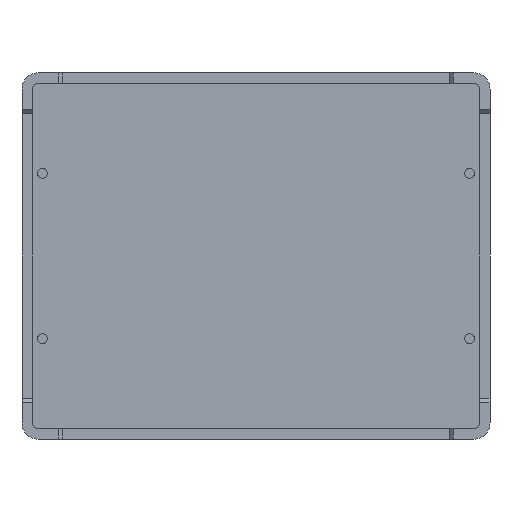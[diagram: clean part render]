
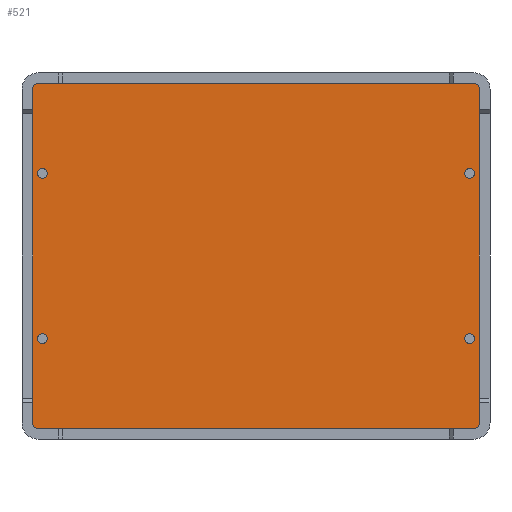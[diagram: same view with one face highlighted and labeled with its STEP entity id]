
A CAD part, front view. The second image highlights one B-rep face of the part: STEP entity #521.
In plain terms, the highlighted planar face has unit normal (0, -1, 0).
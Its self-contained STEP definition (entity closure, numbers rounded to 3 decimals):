
#5 = CARTESIAN_POINT ( 'NONE',  ( 26.25, 1., -10.15 ) ) ;
#11 = EDGE_CURVE ( 'NONE', #3904, #3812, #957, .T. ) ;
#15 = CARTESIAN_POINT ( 'NONE',  ( -26.25, 1., 10.15 ) ) ;
#70 = EDGE_CURVE ( 'NONE', #4025, #3808, #769, .T. ) ;
#82 = DIRECTION ( 'NONE',  ( 0., 0., -1. ) ) ;
#90 = EDGE_CURVE ( 'NONE', #4149, #3990, #660, .T. ) ;
#148 = EDGE_CURVE ( 'NONE', #4294, #3391, #442, .T. ) ;
#159 = EDGE_CURVE ( 'NONE', #1110, #962, #375, .T. ) ;
#170 = EDGE_CURVE ( 'NONE', #672, #1106, #349, .T. ) ;
#177 = EDGE_CURVE ( 'NONE', #900, #880, #321, .T. ) ;
#187 = EDGE_CURVE ( 'NONE', #1158, #1151, #302, .T. ) ;
#192 = EDGE_CURVE ( 'NONE', #3391, #4149, #284, .T. ) ;
#201 = EDGE_CURVE ( 'NONE', #3990, #4025, #336, .T. ) ;
#205 = EDGE_CURVE ( 'NONE', #3808, #3904, #271, .T. ) ;
#206 = AXIS2_PLACEMENT_3D ( 'NONE', #2998, #2906, #2840 ) ;
#211 = EDGE_CURVE ( 'NONE', #3812, #4294, #263, .T. ) ;
#263 = CIRCLE ( 'NONE', #2821, 0.7 ) ;
#271 = CIRCLE ( 'NONE', #2596, 0.7 ) ;
#284 = CIRCLE ( 'NONE', #2126, 0.7 ) ;
#302 = CIRCLE ( 'NONE', #1886, 0.6 ) ;
#321 = CIRCLE ( 'NONE', #1660, 0.6 ) ;
#336 = CIRCLE ( 'NONE', #2363, 0.7 ) ;
#349 = CIRCLE ( 'NONE', #1433, 0.6 ) ;
#375 = CIRCLE ( 'NONE', #1153, 0.6 ) ;
#376 = VECTOR ( 'NONE', #82, 1000. ) ;
#432 = DIRECTION ( 'NONE',  ( 0., 0., -1. ) ) ;
#441 = DIRECTION ( 'NONE',  ( 0., 0., -1. ) ) ;
#442 = LINE ( 'NONE', #1033, #376 ) ;
#455 = AXIS2_PLACEMENT_3D ( 'NONE', #1383, #1070, #893 ) ;
#463 = CARTESIAN_POINT ( 'NONE',  ( -26.25, 1., -10.75 ) ) ;
#521 = ADVANCED_FACE ( 'NONE', ( #4481, #4167, #4469, #4185, #4267 ), #4410, .T. ) ;
#537 = EDGE_CURVE ( 'NONE', #880, #900, #4094, .T. ) ;
#621 = VECTOR ( 'NONE', #1281, 1000. ) ;
#660 = LINE ( 'NONE', #1745, #621 ) ;
#672 = VERTEX_POINT ( 'NONE', #3375 ) ;
#705 = VECTOR ( 'NONE', #2357, 1000. ) ;
#769 = LINE ( 'NONE', #2144, #705 ) ;
#778 = EDGE_CURVE ( 'NONE', #962, #1110, #4195, .T. ) ;
#880 = VERTEX_POINT ( 'NONE', #463 ) ;
#893 = DIRECTION ( 'NONE',  ( 0., 0., -1. ) ) ;
#900 = VERTEX_POINT ( 'NONE', #3097 ) ;
#936 = VECTOR ( 'NONE', #3134, 1000. ) ;
#957 = LINE ( 'NONE', #3124, #936 ) ;
#962 = VERTEX_POINT ( 'NONE', #3409 ) ;
#1033 = CARTESIAN_POINT ( 'NONE',  ( -27.45, 1., 21.2 ) ) ;
#1070 = DIRECTION ( 'NONE',  ( 0., -1., 0. ) ) ;
#1106 = VERTEX_POINT ( 'NONE', #2900 ) ;
#1110 = VERTEX_POINT ( 'NONE', #1887 ) ;
#1151 = VERTEX_POINT ( 'NONE', #2624 ) ;
#1153 = AXIS2_PLACEMENT_3D ( 'NONE', #3284, #3263, #3244 ) ;
#1158 = VERTEX_POINT ( 'NONE', #3251 ) ;
#1281 = DIRECTION ( 'NONE',  ( 1., 0., 0. ) ) ;
#1310 = AXIS2_PLACEMENT_3D ( 'NONE', #5, #2750, #432 ) ;
#1337 = EDGE_CURVE ( 'NONE', #1106, #672, #2192, .T. ) ;
#1383 = CARTESIAN_POINT ( 'NONE',  ( -26.25, 1., -10.15 ) ) ;
#1433 = AXIS2_PLACEMENT_3D ( 'NONE', #3164, #3158, #3152 ) ;
#1612 = EDGE_LOOP ( 'NONE', ( #2398, #2406, #2416, #2446, #2504, #2524, #2554, #2578 ) ) ;
#1623 = CARTESIAN_POINT ( 'NONE',  ( 27.45, 1., 20.5 ) ) ;
#1660 = AXIS2_PLACEMENT_3D ( 'NONE', #3121, #3111, #3106 ) ;
#1685 = CARTESIAN_POINT ( 'NONE',  ( 27.45, 1., -20.5 ) ) ;
#1718 = CARTESIAN_POINT ( 'NONE',  ( -26.75, 1., -21.2 ) ) ;
#1743 = EDGE_LOOP ( 'NONE', ( #2188, #2209 ) ) ;
#1745 = CARTESIAN_POINT ( 'NONE',  ( -27.45, 1., -21.2 ) ) ;
#1764 = EDGE_LOOP ( 'NONE', ( #2161, #2178 ) ) ;
#1844 = EDGE_LOOP ( 'NONE', ( #2280, #2314 ) ) ;
#1886 = AXIS2_PLACEMENT_3D ( 'NONE', #3055, #3044, #3026 ) ;
#1887 = CARTESIAN_POINT ( 'NONE',  ( 26.25, 1., 10.75 ) ) ;
#1901 = EDGE_LOOP ( 'NONE', ( #2353, #2360 ) ) ;
#2002 = CARTESIAN_POINT ( 'NONE',  ( 26.75, 1., 21.2 ) ) ;
#2126 = AXIS2_PLACEMENT_3D ( 'NONE', #3002, #2981, #2970 ) ;
#2144 = CARTESIAN_POINT ( 'NONE',  ( 27.45, 1., -21.2 ) ) ;
#2161 = ORIENTED_EDGE ( 'NONE', *, *, #159, .F. ) ;
#2178 = ORIENTED_EDGE ( 'NONE', *, *, #778, .F. ) ;
#2188 = ORIENTED_EDGE ( 'NONE', *, *, #170, .F. ) ;
#2192 = CIRCLE ( 'NONE', #1310, 0.6 ) ;
#2209 = ORIENTED_EDGE ( 'NONE', *, *, #1337, .F. ) ;
#2280 = ORIENTED_EDGE ( 'NONE', *, *, #177, .F. ) ;
#2314 = ORIENTED_EDGE ( 'NONE', *, *, #537, .F. ) ;
#2353 = ORIENTED_EDGE ( 'NONE', *, *, #187, .F. ) ;
#2357 = DIRECTION ( 'NONE',  ( 0., 0., 1. ) ) ;
#2360 = ORIENTED_EDGE ( 'NONE', *, *, #4084, .F. ) ;
#2363 = AXIS2_PLACEMENT_3D ( 'NONE', #2893, #2888, #2883 ) ;
#2398 = ORIENTED_EDGE ( 'NONE', *, *, #148, .T. ) ;
#2406 = ORIENTED_EDGE ( 'NONE', *, *, #192, .T. ) ;
#2416 = ORIENTED_EDGE ( 'NONE', *, *, #90, .T. ) ;
#2446 = ORIENTED_EDGE ( 'NONE', *, *, #201, .T. ) ;
#2504 = ORIENTED_EDGE ( 'NONE', *, *, #70, .T. ) ;
#2524 = ORIENTED_EDGE ( 'NONE', *, *, #205, .T. ) ;
#2554 = ORIENTED_EDGE ( 'NONE', *, *, #11, .T. ) ;
#2578 = ORIENTED_EDGE ( 'NONE', *, *, #211, .T. ) ;
#2596 = AXIS2_PLACEMENT_3D ( 'NONE', #2872, #2867, #2860 ) ;
#2624 = CARTESIAN_POINT ( 'NONE',  ( -26.25, 1., 9.55 ) ) ;
#2750 = DIRECTION ( 'NONE',  ( 0., -1., 0. ) ) ;
#2758 = DIRECTION ( 'NONE',  ( 0., -1., 0. ) ) ;
#2781 = DIRECTION ( 'NONE',  ( 0., 0., -1. ) ) ;
#2800 = DIRECTION ( 'NONE',  ( 0., -1., 0. ) ) ;
#2812 = CARTESIAN_POINT ( 'NONE',  ( -26.75, 1., 20.5 ) ) ;
#2821 = AXIS2_PLACEMENT_3D ( 'NONE', #2812, #2800, #2781 ) ;
#2840 = DIRECTION ( 'NONE',  ( 0., 0., -1. ) ) ;
#2860 = DIRECTION ( 'NONE',  ( 0., 0., -1. ) ) ;
#2867 = DIRECTION ( 'NONE',  ( 0., -1., 0. ) ) ;
#2872 = CARTESIAN_POINT ( 'NONE',  ( 26.75, 1., 20.5 ) ) ;
#2883 = DIRECTION ( 'NONE',  ( 0., 0., -1. ) ) ;
#2888 = DIRECTION ( 'NONE',  ( 0., -1., 0. ) ) ;
#2893 = CARTESIAN_POINT ( 'NONE',  ( 26.75, 1., -20.5 ) ) ;
#2900 = CARTESIAN_POINT ( 'NONE',  ( 26.25, 1., -10.75 ) ) ;
#2906 = DIRECTION ( 'NONE',  ( 0., -1., 0. ) ) ;
#2919 = CARTESIAN_POINT ( 'NONE',  ( -27.45, 1., -20.5 ) ) ;
#2970 = DIRECTION ( 'NONE',  ( 0., 0., -1. ) ) ;
#2981 = DIRECTION ( 'NONE',  ( 0., -1., 0. ) ) ;
#2998 = CARTESIAN_POINT ( 'NONE',  ( 26.25, 1., 10.15 ) ) ;
#3002 = CARTESIAN_POINT ( 'NONE',  ( -26.75, 1., -20.5 ) ) ;
#3003 = CARTESIAN_POINT ( 'NONE',  ( -26.75, 1., 21.2 ) ) ;
#3026 = DIRECTION ( 'NONE',  ( 0., 0., -1. ) ) ;
#3044 = DIRECTION ( 'NONE',  ( 0., -1., 0. ) ) ;
#3055 = CARTESIAN_POINT ( 'NONE',  ( -26.25, 1., 10.15 ) ) ;
#3097 = CARTESIAN_POINT ( 'NONE',  ( -26.25, 1., -9.55 ) ) ;
#3105 = CARTESIAN_POINT ( 'NONE',  ( -27.45, 1., 20.5 ) ) ;
#3106 = DIRECTION ( 'NONE',  ( 0., 0., -1. ) ) ;
#3111 = DIRECTION ( 'NONE',  ( 0., -1., 0. ) ) ;
#3121 = CARTESIAN_POINT ( 'NONE',  ( -26.25, 1., -10.15 ) ) ;
#3124 = CARTESIAN_POINT ( 'NONE',  ( 27.45, 1., 21.2 ) ) ;
#3134 = DIRECTION ( 'NONE',  ( -1., 0., 0. ) ) ;
#3152 = DIRECTION ( 'NONE',  ( 0., 0., -1. ) ) ;
#3158 = DIRECTION ( 'NONE',  ( 0., -1., 0. ) ) ;
#3164 = CARTESIAN_POINT ( 'NONE',  ( 26.25, 1., -10.15 ) ) ;
#3244 = DIRECTION ( 'NONE',  ( 0., 0., -1. ) ) ;
#3251 = CARTESIAN_POINT ( 'NONE',  ( -26.25, 1., 10.75 ) ) ;
#3263 = DIRECTION ( 'NONE',  ( 0., -1., 0. ) ) ;
#3284 = CARTESIAN_POINT ( 'NONE',  ( 26.25, 1., 10.15 ) ) ;
#3330 = CARTESIAN_POINT ( 'NONE',  ( 26.75, 1., -21.2 ) ) ;
#3375 = CARTESIAN_POINT ( 'NONE',  ( 26.25, 1., -9.55 ) ) ;
#3391 = VERTEX_POINT ( 'NONE', #2919 ) ;
#3409 = CARTESIAN_POINT ( 'NONE',  ( 26.25, 1., 9.55 ) ) ;
#3519 = AXIS2_PLACEMENT_3D ( 'NONE', #15, #2758, #441 ) ;
#3808 = VERTEX_POINT ( 'NONE', #1623 ) ;
#3812 = VERTEX_POINT ( 'NONE', #3003 ) ;
#3872 = CIRCLE ( 'NONE', #3519, 0.6 ) ;
#3904 = VERTEX_POINT ( 'NONE', #2002 ) ;
#3990 = VERTEX_POINT ( 'NONE', #3330 ) ;
#4025 = VERTEX_POINT ( 'NONE', #1685 ) ;
#4043 = AXIS2_PLACEMENT_3D ( 'NONE', #4352, #4242, #4194 ) ;
#4084 = EDGE_CURVE ( 'NONE', #1151, #1158, #3872, .T. ) ;
#4094 = CIRCLE ( 'NONE', #455, 0.6 ) ;
#4149 = VERTEX_POINT ( 'NONE', #1718 ) ;
#4167 = FACE_BOUND ( 'NONE', #1743, .T. ) ;
#4185 = FACE_BOUND ( 'NONE', #1901, .T. ) ;
#4194 = DIRECTION ( 'NONE',  ( 0., 0., -1. ) ) ;
#4195 = CIRCLE ( 'NONE', #206, 0.6 ) ;
#4242 = DIRECTION ( 'NONE',  ( 0., -1., 0. ) ) ;
#4267 = FACE_OUTER_BOUND ( 'NONE', #1612, .T. ) ;
#4294 = VERTEX_POINT ( 'NONE', #3105 ) ;
#4352 = CARTESIAN_POINT ( 'NONE',  ( 0., 1., 0. ) ) ;
#4410 = PLANE ( 'NONE',  #4043 ) ;
#4469 = FACE_BOUND ( 'NONE', #1844, .T. ) ;
#4481 = FACE_BOUND ( 'NONE', #1764, .T. ) ;
